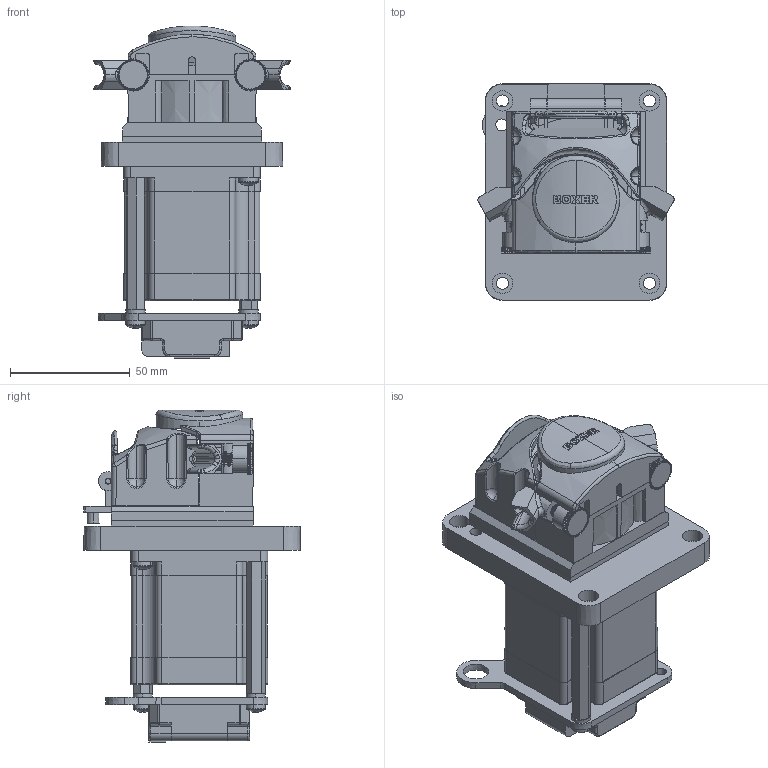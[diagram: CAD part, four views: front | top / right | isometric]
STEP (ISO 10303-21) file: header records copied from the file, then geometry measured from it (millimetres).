
FILE_DESCRIPTION (( 'STEP AP203' ), '1' );
FILE_NAME ('15QQ+4A.STEP', '2017-01-27T09:34:57', ( '' ), ( '' ), 'SwSTEP 2.0', 'SolidWorks 2015', '' );
FILE_SCHEMA (( 'CONFIG_CONTROL_DESIGN' ));
Products named in the file (1): 15QQ+4A
Bounding box: 81.81 x 90.43 x 138.43 mm (x, y, z)
Surface area: 77542.5 mm2 (no closed solid volume)
Topology: 0 solids, 34 shells, 1293 faces, 4802 edges, 3380 vertices
Faces by surface type: plane 462, cylinder 360, bspline 259, cone 125, torus 63, sphere 24
Entity records: 69184 total; most frequent: CARTESIAN_POINT 31994, ORIENTED_EDGE 7802, DIRECTION 6976, EDGE_CURVE 4798, VERTEX_POINT 3380, AXIS2_PLACEMENT_3D 2476, LINE 2024, VECTOR 2024
